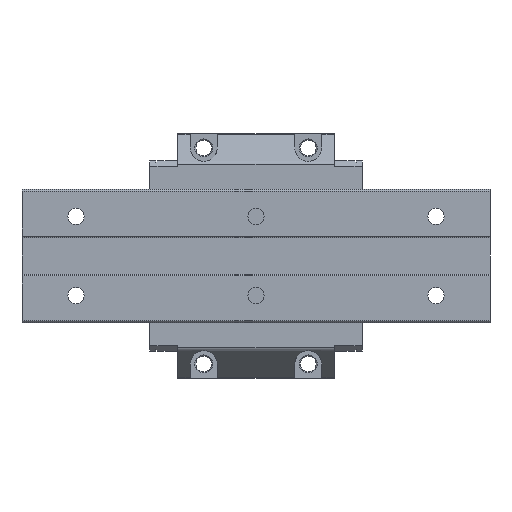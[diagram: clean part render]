
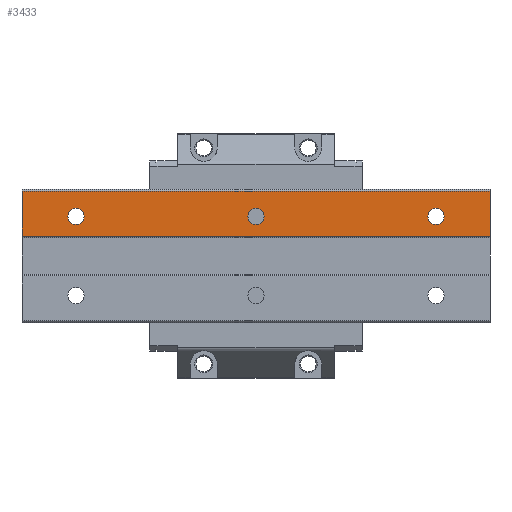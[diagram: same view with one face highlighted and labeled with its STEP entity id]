
A CAD part, front view. The second image highlights one B-rep face of the part: STEP entity #3433.
In plain terms, the highlighted planar face has unit normal (0, -1, 0).
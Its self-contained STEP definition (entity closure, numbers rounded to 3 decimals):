
#71=PLANE('',#3658);
#196=LINE('',#5074,#534);
#198=LINE('',#5084,#536);
#199=LINE('',#5086,#537);
#200=LINE('',#5088,#538);
#534=VECTOR('',#4025,1000.);
#536=VECTOR('',#4035,1000.);
#537=VECTOR('',#4036,1000.);
#538=VECTOR('',#4037,1000.);
#878=ORIENTED_EDGE('',*,*,#1872,.F.);
#879=ORIENTED_EDGE('',*,*,#1873,.F.);
#880=ORIENTED_EDGE('',*,*,#1874,.F.);
#881=ORIENTED_EDGE('',*,*,#1875,.T.);
#882=ORIENTED_EDGE('',*,*,#1876,.F.);
#883=ORIENTED_EDGE('',*,*,#1877,.F.);
#884=ORIENTED_EDGE('',*,*,#1870,.T.);
#1870=EDGE_CURVE('',#2367,#2366,#196,.T.);
#1872=EDGE_CURVE('',#2368,#2368,#2710,.T.);
#1873=EDGE_CURVE('',#2369,#2369,#2711,.T.);
#1874=EDGE_CURVE('',#2370,#2370,#2712,.T.);
#1875=EDGE_CURVE('',#2366,#2371,#198,.T.);
#1876=EDGE_CURVE('',#2372,#2371,#199,.T.);
#1877=EDGE_CURVE('',#2367,#2372,#200,.T.);
#2366=VERTEX_POINT('',#5073);
#2367=VERTEX_POINT('',#5075);
#2368=VERTEX_POINT('',#5079);
#2369=VERTEX_POINT('',#5081);
#2370=VERTEX_POINT('',#5083);
#2371=VERTEX_POINT('',#5085);
#2372=VERTEX_POINT('',#5087);
#2710=CIRCLE('',#3659,2.25);
#2711=CIRCLE('',#3660,2.25);
#2712=CIRCLE('',#3661,2.25);
#2851=EDGE_LOOP('',(#878));
#2852=EDGE_LOOP('',(#879));
#2853=EDGE_LOOP('',(#880));
#2854=EDGE_LOOP('',(#881,#882,#883,#884));
#3111=FACE_BOUND('',#2851,.T.);
#3112=FACE_BOUND('',#2852,.T.);
#3113=FACE_BOUND('',#2853,.T.);
#3114=FACE_BOUND('',#2854,.T.);
#3433=ADVANCED_FACE('',(#3111,#3112,#3113,#3114),#71,.F.);
#3658=AXIS2_PLACEMENT_3D('',#5077,#4027,#4028);
#3659=AXIS2_PLACEMENT_3D('',#5078,#4029,#4030);
#3660=AXIS2_PLACEMENT_3D('',#5080,#4031,#4032);
#3661=AXIS2_PLACEMENT_3D('',#5082,#4033,#4034);
#4025=DIRECTION('',(-1.,0.,0.));
#4027=DIRECTION('',(0.,1.,0.));
#4028=DIRECTION('',(0.,0.,1.));
#4029=DIRECTION('',(0.,-1.,0.));
#4030=DIRECTION('',(0.,0.,-1.));
#4031=DIRECTION('',(0.,-1.,0.));
#4032=DIRECTION('',(0.,0.,-1.));
#4033=DIRECTION('',(0.,-1.,0.));
#4034=DIRECTION('',(0.,0.,-1.));
#4035=DIRECTION('',(0.,0.,-1.));
#4036=DIRECTION('',(-1.,0.,0.));
#4037=DIRECTION('',(0.,0.,-1.));
#5073=CARTESIAN_POINT('',(-15.,0.,18.));
#5074=CARTESIAN_POINT('',(115.,0.,18.));
#5075=CARTESIAN_POINT('',(115.,0.,18.));
#5077=CARTESIAN_POINT('',(115.,0.,18.));
#5078=CARTESIAN_POINT('',(50.,0.,11.));
#5079=CARTESIAN_POINT('',(50.,0.,8.75));
#5080=CARTESIAN_POINT('',(100.,0.,11.));
#5081=CARTESIAN_POINT('',(100.,0.,8.75));
#5082=CARTESIAN_POINT('',(0.,0.,11.));
#5083=CARTESIAN_POINT('',(0.,0.,8.75));
#5084=CARTESIAN_POINT('',(-15.,0.,18.));
#5085=CARTESIAN_POINT('',(-15.,0.,5.513));
#5086=CARTESIAN_POINT('',(115.,0.,5.513));
#5087=CARTESIAN_POINT('',(115.,0.,5.513));
#5088=CARTESIAN_POINT('',(115.,0.,18.));
